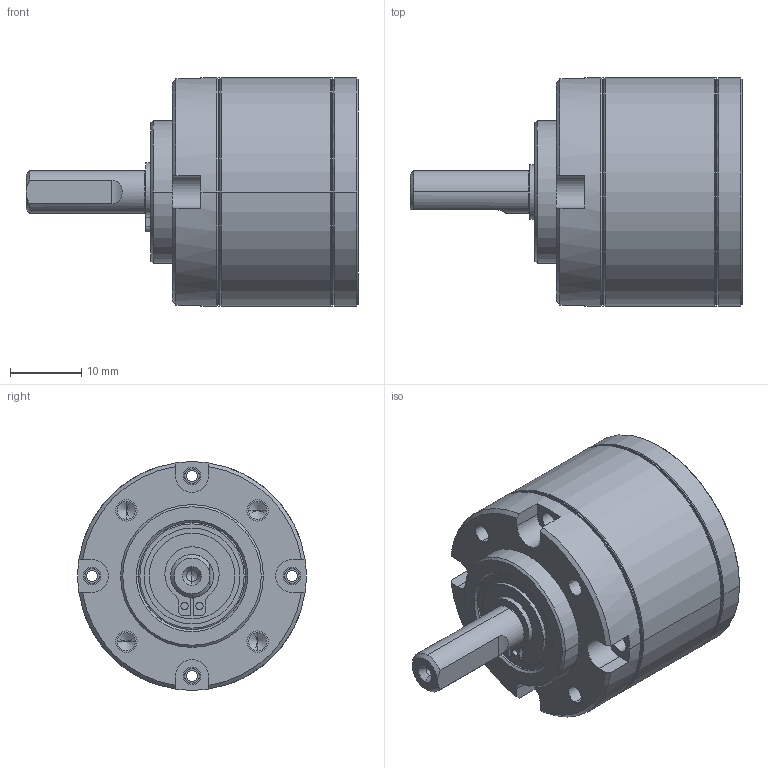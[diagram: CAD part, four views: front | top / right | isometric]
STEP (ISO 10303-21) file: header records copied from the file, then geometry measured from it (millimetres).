
FILE_DESCRIPTION((''),'2;1');
FILE_NAME('BBH_ASM','2023-03-20T',('Hsien.Hsu'),(''),'CREO PARAMETRIC BY PTC INC, 2016050','CREO PARAMETRIC BY PTC INC, 2016050','');
FILE_SCHEMA(('AUTOMOTIVE_DESIGN { 1 0 10303 214 1 1 1 1 }'));
Length unit declared in the file: millimetre
Products named in the file (12): NEWCOVER; C_LOCK; BALL_BEARING_M96860301; P32018_1107105_PW_; P32018_1109105_SW_; PG32CRING; NEWCOVER_ASM; 3202SG02_B; 3202SC02_B_ASM; 3201RSG020104500B; 3204LC0206100B; BBH_ASM
Assembly tree (14 placements, depth 3):
  BBH_ASM
    NEWCOVER_ASM
      NEWCOVER
      C_LOCK
      BALL_BEARING_M96860301  x2
      P32018_1107105_PW_
      P32018_1109105_SW_
      PG32CRING
    3202SC02_B_ASM
      3202SG02_B
      P32018_1109105_SW_
    3201RSG020104500B
    P32018_1107105_PW_
    3204LC0206100B
Bounding box: 46.5 x 32 x 32 mm (x, y, z)
Volume: 16822.4 mm3; surface area: 14418.2 mm2
Topology: 12 solids, 20 shells, 350 faces, 956 edges, 698 vertices
Faces by surface type: cylinder 179, cone 76, plane 71, torus 24
Entity records: 13818 total; most frequent: DIRECTION 2001, CARTESIAN_POINT 1909, ORIENTED_EDGE 1424, AXIS2_PLACEMENT_3D 811, EDGE_CURVE 728, PRESENTATION_STYLE_ASSIGNMENT 691, STYLED_ITEM 691, CURVE_STYLE 677
